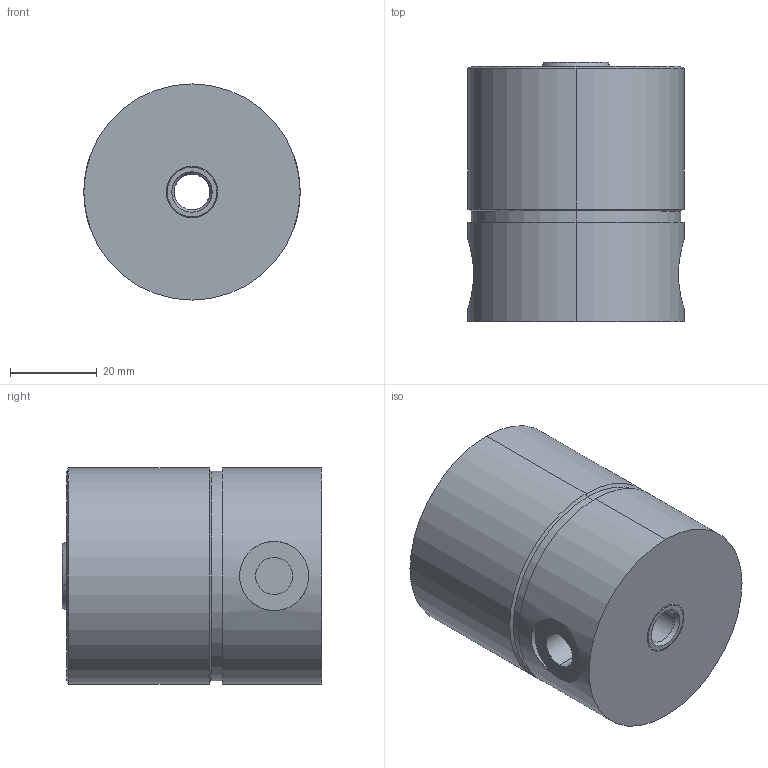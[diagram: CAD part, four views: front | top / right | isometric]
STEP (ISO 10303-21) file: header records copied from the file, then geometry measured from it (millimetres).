
FILE_DESCRIPTION (( 'STEP AP203' ), '1' );
FILE_NAME ('GERMA_Hohlkolbenzylinder_82-60-2-0.STEP', '2016-01-03T15:40:18', ( '' ), ( '' ), 'SwSTEP 2.0', 'SolidWorks 2015', '' );
FILE_SCHEMA (( 'CONFIG_CONTROL_DESIGN' ));
Length unit declared in the file: millimetre
Products named in the file (3): Gehaeuse 82-60-2_Geh„use; Kolben 82-60-X-0_Kolben; GERMA_Hohlkolbenzylinder_82-60-2-0
Assembly tree (2 placements, depth 2):
  GERMA_Hohlkolbenzylinder_82-60-2-0
    Gehaeuse 82-60-2_Geh„use
    Kolben 82-60-X-0_Kolben
Bounding box: 50 x 60 x 50 mm (x, y, z)
Volume: 107613.7 mm3; surface area: 23272.2 mm2
Topology: 2 solids, 2 shells, 73 faces, 150 edges, 92 vertices
Faces by surface type: cylinder 36, cone 20, plane 17
Entity records: 2395 total; most frequent: CARTESIAN_POINT 488, DIRECTION 384, ORIENTED_EDGE 292, AXIS2_PLACEMENT_3D 164, EDGE_CURVE 146, VERTEX_POINT 92, EDGE_LOOP 92, CIRCLE 86
